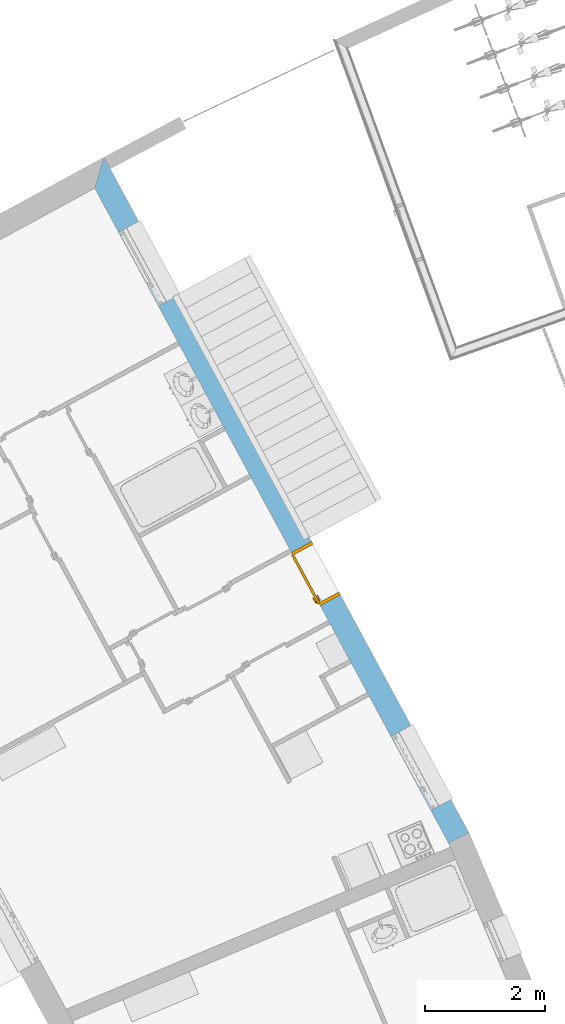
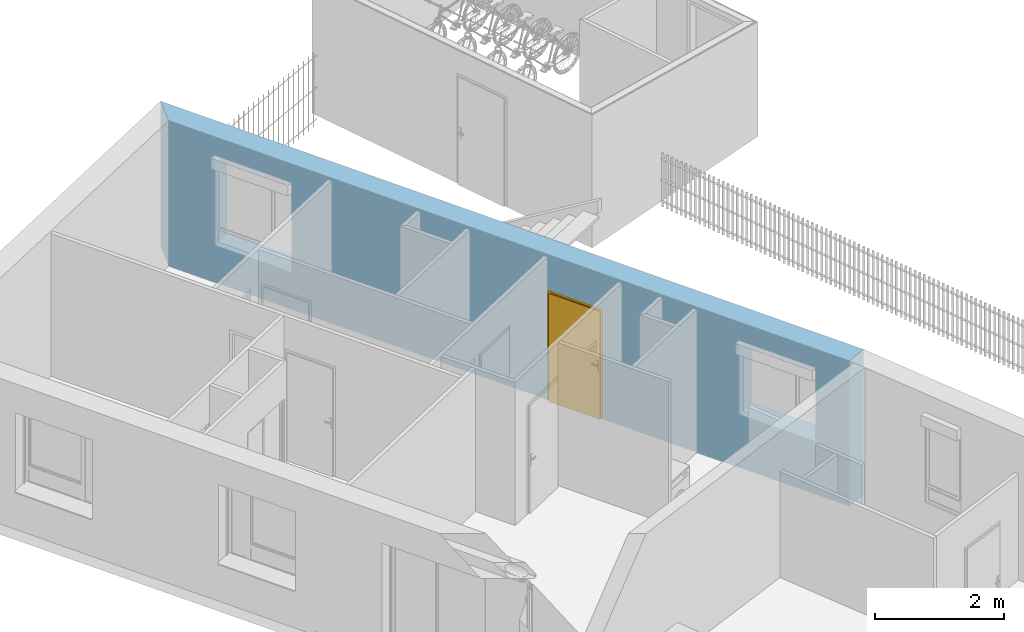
# One storey, part 68 of 195: 1 door, 3 openings, plus 1 element that does not belong to this part.
"""IFC2X3 building model written with IfcOpenShell, lengths in metres."""

import ifcopenshell
import ifcopenshell.guid

model = None  # the IFC model being written
_history = None  # IfcOwnerHistory: only IFC2X3 demands one
_inside = {}  # id of a spatial element -> (the spatial element, [elements in it])
_under = {}  # id of a project, library or spatial element -> (it, [spatial elements below it])
_declared = {}  # id of a project -> (the project, [libraries it declares])
_typed = {}  # id of a type object -> (the type object, [elements of that type])
_made_of = {}  # id of a material, layer set ... -> (it, [elements and type objects made of it])


def new_model(schema):
    """Start an empty IFC model of exactly this schema.

    Asked for "IFC4X3", IfcOpenShell would pick the latest addendum, in which some entities
    have other attributes; the version numbers below select the first issue.
    IFC2X3 requires an IfcOwnerHistory on every rooted entity: one is made here for all.
    """
    global model, _history
    if schema == "IFC4X3":
        model = ifcopenshell.file(schema_version=(4, 3, 0, 0))
    else:
        model = ifcopenshell.file(schema=schema)
    _inside.clear()
    _under.clear()
    _declared.clear()
    _typed.clear()
    _made_of.clear()
    _history = None
    if model.schema == "IFC2X3":
        org = make("IfcOrganization", Name="unknown")
        user = make(
            "IfcPersonAndOrganization",
            ThePerson=make("IfcPerson", FamilyName="unknown"),
            TheOrganization=org,
        )
        app = make(
            "IfcApplication",
            ApplicationDeveloper=org,
            Version="unknown",
            ApplicationFullName="unknown",
            ApplicationIdentifier="unknown",
        )
        _history = make(
            "IfcOwnerHistory",
            OwningUser=user,
            OwningApplication=app,
            ChangeAction="ADDED",
            CreationDate=0,
        )
    return model


def make(cls, **values):
    """One entity of the class cls with the attributes given. An attribute that is None is left unset."""
    return model.create_entity(
        cls, **{name: value for name, value in values.items() if value is not None}
    )


def entity(cls, *values):
    """Any entity or typed value of the class cls, its attributes in the order of the schema. None: left unset."""
    e = model.create_entity(cls)
    for i, value in enumerate(values):
        if value is not None:
            e[i] = value
    return e


def rooted(cls, **values):
    """An entity with a GlobalId (a new one), such as an element, a storey or a relation."""
    return make(cls, GlobalId=ifcopenshell.guid.new(), OwnerHistory=_history, **values)


def si_unit(unit_type, name, prefix=None):
    """IfcSIUnit, for example si_unit("LENGTHUNIT", "METRE", prefix="MILLI")."""
    return make("IfcSIUnit", UnitType=unit_type, Prefix=prefix, Name=name)


def converted_unit(unit_type, name, factor, base, dimensions=None, offset=None):
    """IfcConversionBasedUnit, such as the inch: factor (a typed value) times the base unit."""
    return make(
        "IfcConversionBasedUnit"
        if offset is None
        else "IfcConversionBasedUnitWithOffset",
        ConversionOffset=offset,
        Dimensions=None
        if dimensions is None
        else entity("IfcDimensionalExponents", *dimensions),
        UnitType=unit_type,
        Name=name,
        ConversionFactor=make(
            "IfcMeasureWithUnit", ValueComponent=factor, UnitComponent=base
        ),
    )


def derived_unit(unit_type, elements):
    """IfcDerivedUnit: a product of units, each with its exponent."""
    return make(
        "IfcDerivedUnit",
        Elements=[
            make("IfcDerivedUnitElement", Unit=unit, Exponent=power)
            for unit, power in elements
        ],
        UnitType=unit_type,
    )


def money_unit(currency):
    """IfcMonetaryUnit."""
    return make("IfcMonetaryUnit", Currency=currency)


def assignment(units):
    """IfcUnitAssignment: the units of a project."""
    return None if units is None else make("IfcUnitAssignment", Units=units)


def point(xyz):
    """IfcCartesianPoint."""
    return None if xyz is None else make("IfcCartesianPoint", Coordinates=xyz)


def direction(xyz):
    """IfcDirection."""
    return None if xyz is None else make("IfcDirection", DirectionRatios=xyz)


def frame(location, z_axis=None, x_axis=None):
    """IfcAxis2Placement3D, a coordinate frame: its origin and axes. An axis left out is left unset."""
    return make(
        "IfcAxis2Placement3D",
        Location=point(location),
        Axis=direction(z_axis),
        RefDirection=direction(x_axis),
    )


def frame_2d(location, x_axis=None):
    """IfcAxis2Placement2D, a coordinate frame in the plane: its origin and x axis."""
    return make(
        "IfcAxis2Placement2D", Location=point(location), RefDirection=direction(x_axis)
    )


def origin_with_axes():
    """The frame at (0, 0, 0) with the z axis (0, 0, 1) and the x axis (1, 0, 0) written out."""
    return frame((0.0, 0.0, 0.0), z_axis=(0.0, 0.0, 1.0), x_axis=(1.0, 0.0, 0.0))


def origin_2d_with_axis():
    """The frame at (0, 0) in the plane with the x axis (1, 0) written out."""
    return frame_2d((0.0, 0.0), x_axis=(1.0, 0.0))


def place(relative_to, where):
    """IfcLocalPlacement: puts the frame where relative to a parent placement (None: the world)."""
    return make(
        "IfcLocalPlacement", PlacementRelTo=relative_to, RelativePlacement=where
    )


def context(
    kind, dimensions, precision=None, world=None, true_north=None, identifier=None
):
    """IfcGeometricRepresentationContext, for example the 3D "Model" context."""
    return make(
        "IfcGeometricRepresentationContext",
        ContextIdentifier=identifier,
        ContextType=kind,
        CoordinateSpaceDimension=dimensions,
        Precision=precision,
        WorldCoordinateSystem=world,
        TrueNorth=true_north,
    )


def subcontext(parent, identifier, kind, view, scale=None):
    """IfcGeometricRepresentationSubContext, for example "Body" below "Model"."""
    return make(
        "IfcGeometricRepresentationSubContext",
        ContextIdentifier=identifier,
        ContextType=kind,
        ParentContext=parent,
        TargetScale=scale,
        TargetView=view,
    )


def project(units=None, contexts=None):
    """IfcProject with its units and contexts."""
    return rooted(
        "IfcProject",
        Name="project",
        RepresentationContexts=contexts,
        UnitsInContext=assignment(units),
    )


def spatial(cls, under=None, at=None, **own):
    """A site, building, storey or space (cls), placed at a placement, below another one or the project."""
    s = rooted(cls, ObjectPlacement=at, **own)
    if under is not None:
        _under.setdefault(under.id(), (under, []))[1].append(s)
    return s


def polyline(points):
    """IfcPolyline through the points."""
    return make("IfcPolyline", Points=[point(p) for p in points])


def profile(cls, at=None, kind="AREA", **sizes):
    """A parametric profile (cls). Its sizes go by their IFC names, for example OverallWidth=200.0."""
    return make(cls, ProfileType=kind, Position=at, **sizes)


def rectangle(**sizes):
    """IfcRectangleProfileDef."""
    return profile("IfcRectangleProfileDef", **sizes)


def outline(outer, holes=None, kind="AREA"):
    """IfcArbitraryClosedProfileDef: a profile drawn as a closed curve; with holes, ...WithVoids."""
    if holes is None:
        return make("IfcArbitraryClosedProfileDef", ProfileType=kind, OuterCurve=outer)
    return make(
        "IfcArbitraryProfileDefWithVoids",
        ProfileType=kind,
        OuterCurve=outer,
        InnerCurves=holes,
    )


def extrude(swept, where, along, depth):
    """IfcExtrudedAreaSolid: the profile swept, set in the frame where, extruded along a direction by depth."""
    return make(
        "IfcExtrudedAreaSolid",
        SweptArea=swept,
        Position=where,
        ExtrudedDirection=direction(along),
        Depth=depth,
    )


def faces_of(points, faces, orient=None, outer=None):
    """IfcFace entities. A face is a list of loops; a loop is a list of indices into points, from 0.

    orient and outer hold one flag for each loop. By default every Orientation is true, the
    first loop of a face is its IfcFaceOuterBound and the others are IfcFaceBound.
    """
    made = []
    for i, loops in enumerate(faces):
        bounds = []
        for j, loop in enumerate(loops):
            is_outer = j == 0 if outer is None else outer[i][j]
            bounds.append(
                make(
                    "IfcFaceOuterBound" if is_outer else "IfcFaceBound",
                    Bound=make("IfcPolyLoop", Polygon=[points[k] for k in loop]),
                    Orientation=True if orient is None else orient[i][j],
                )
            )
        made.append(make("IfcFace", Bounds=bounds))
    return made


def faceted_brep(points, faces, orient=None, outer=None, voids=None):
    """IfcFacetedBrep: a solid bounded by flat faces; with voids (closed shells), ...WithVoids."""
    shared = [point(p) for p in points]
    hull = make("IfcClosedShell", CfsFaces=faces_of(shared, faces, orient, outer))
    if voids is None:
        return make("IfcFacetedBrep", Outer=hull)
    return make(
        "IfcFacetedBrepWithVoids",
        Outer=hull,
        Voids=[
            make(cls, CfsFaces=faces_of(shared, fs, o, b)) for cls, fs, o, b in voids
        ],
    )


def shape(context_of_items, identifier, shape_type, items):
    """IfcShapeRepresentation: the items that make up one representation, for example the "Body"."""
    return make(
        "IfcShapeRepresentation",
        ContextOfItems=context_of_items,
        RepresentationIdentifier=identifier,
        RepresentationType=shape_type,
        Items=items,
    )


def source(mapping_origin, context_of_items, identifier, shape_type, items):
    """IfcRepresentationMap: a shape defined once, which mapped items show again and again."""
    return make(
        "IfcRepresentationMap",
        MappingOrigin=mapping_origin,
        MappedRepresentation=shape(context_of_items, identifier, shape_type, items),
    )


def transform(
    local_origin,
    x_axis=None,
    y_axis=None,
    z_axis=None,
    scale=None,
    scale2=None,
    scale3=None,
    uniform=True,
):
    """IfcCartesianTransformationOperator3D, or its non-uniform kind. x_axis, y_axis, z_axis: its Axis1, 2, 3."""
    if uniform:
        return make(
            "IfcCartesianTransformationOperator3D",
            Axis1=direction(x_axis),
            Axis2=direction(y_axis),
            LocalOrigin=point(local_origin),
            Scale=scale,
            Axis3=direction(z_axis),
        )
    return make(
        "IfcCartesianTransformationOperator3DnonUniform",
        Axis1=direction(x_axis),
        Axis2=direction(y_axis),
        LocalOrigin=point(local_origin),
        Scale=scale,
        Axis3=direction(z_axis),
        Scale2=scale2,
        Scale3=scale3,
    )


def mapped(mapping_source, mapping_target):
    """IfcMappedItem: shows the shape of a source again, moved by a transform."""
    return make(
        "IfcMappedItem", MappingSource=mapping_source, MappingTarget=mapping_target
    )


def material(Name=None, Category=None):
    """IfcMaterial."""
    return make("IfcMaterial", Name=Name, Category=Category)


def layer(
    of_material, thickness, ventilated=None, Name=None, Category=None, Priority=None
):
    """IfcMaterialLayer: one layer of a wall or slab, of a material (None: an air gap)."""
    return make(
        "IfcMaterialLayer",
        Material=of_material,
        LayerThickness=thickness,
        IsVentilated=ventilated,
        Name=Name,
        Category=Category,
        Priority=Priority,
    )


def layer_set(layers, Name=None):
    """IfcMaterialLayerSet."""
    return make("IfcMaterialLayerSet", MaterialLayers=layers, LayerSetName=Name)


def layer_usage(for_layer_set, set_direction, sense, offset, extent=None):
    """IfcMaterialLayerSetUsage: how a layer set lies in its element."""
    return make(
        "IfcMaterialLayerSetUsage",
        ForLayerSet=for_layer_set,
        LayerSetDirection=set_direction,
        DirectionSense=sense,
        OffsetFromReferenceLine=offset,
        ReferenceExtent=extent,
    )


def made_of(thing, what):
    """Note that an element or type object is made of a material, layer set ...; save() writes the relation."""
    if what is not None:
        _made_of.setdefault(what.id(), (what, []))[1].append(thing)
    return thing


def type_object(cls, material=None, **own):
    """A type object (cls), such as IfcWallType, which elements share."""
    return made_of(rooted(cls, **own), material)


def element(
    cls,
    number,
    at=None,
    inside=None,
    cuts=None,
    type_object=None,
    material=None,
    context=None,
    identifier="Body",
    shape_type=None,
    held_by="IfcProductDefinitionShape",
    body=None,
    shapes=None,
    **own,
):
    """One element of the class cls, such as IfcWall. Its Tag is "e" and its number.

    at: its placement. inside: the storey or other place that contains it. cuts: it is an
    opening in that element (IfcRelVoidsElement). A single representation is given by context,
    identifier, shape_type and body (its items); several are given by shapes. held_by: the class
    of the entity that holds the representations. save() writes the other relations.
    """
    e = rooted(cls, Tag="e%d" % number, ObjectPlacement=at, **own)
    if body is not None:
        shapes = [shape(context, identifier, shape_type, body)]
    if shapes is not None:
        e.Representation = make(held_by, Representations=shapes)
    if inside is not None:
        _inside.setdefault(inside.id(), (inside, []))[1].append(e)
    if cuts is not None:
        rooted(
            "IfcRelVoidsElement", RelatingBuildingElement=cuts, RelatedOpeningElement=e
        )
    if type_object is not None:
        _typed.setdefault(type_object.id(), (type_object, []))[1].append(e)
    return made_of(e, material)


def fill(opening, filler):
    """IfcRelFillsElement: the door or window that sits in an opening."""
    return rooted(
        "IfcRelFillsElement",
        RelatingOpeningElement=opening,
        RelatedBuildingElement=filler,
    )


def aggregate(whole, parts):
    """IfcRelAggregates: a whole, such as a stair, and the parts it consists of."""
    return rooted("IfcRelAggregates", RelatingObject=whole, RelatedObjects=parts)


def save(model, path):
    """Write the relations noted so far, then the file.

    IfcRelAggregates (storeys below a building ...), IfcRelContainedInSpatialStructure (elements
    in a storey), IfcRelDefinesByType, IfcRelAssociatesMaterial and IfcRelDeclares: one each for
    every whole, place, type object, material and project.
    """
    for whole, parts in _under.values():
        aggregate(whole, parts)
    for where, things in _inside.values():
        rooted(
            "IfcRelContainedInSpatialStructure",
            RelatedElements=things,
            RelatingStructure=where,
        )
    for kind, things in _typed.values():
        rooted("IfcRelDefinesByType", RelatedObjects=things, RelatingType=kind)
    for what, things in _made_of.values():
        rooted("IfcRelAssociatesMaterial", RelatedObjects=things, RelatingMaterial=what)
    for by, libraries in _declared.values():
        rooted("IfcRelDeclares", RelatingContext=by, RelatedDefinitions=libraries)
    model.write(path)


model = new_model("IFC2X3")

# Units and contexts
model_context = context("Model", 3, precision=1e-05, world=origin_with_axes(), true_north=direction((0.0, 1.0)))
body_context = subcontext(model_context, "Body", "Model", "MODEL_VIEW")
ifc_project = project(units=[si_unit("LENGTHUNIT", "METRE"), si_unit("AREAUNIT", "SQUARE_METRE"), si_unit("VOLUMEUNIT", "CUBIC_METRE"), converted_unit("PLANEANGLEUNIT", "DEGREE", entity("IfcPlaneAngleMeasure", 0.0174532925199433), si_unit("PLANEANGLEUNIT", "RADIAN"), dimensions=[0, 0, 0, 0, 0, 0, 0]), money_unit("CHF"), converted_unit("TIMEUNIT", "Year", entity("IfcTimeMeasure", 31557600.0), si_unit("TIMEUNIT", "SECOND"), dimensions=[0, 0, 1, 0, 0, 0, 0]), si_unit("MASSUNIT", "GRAM", prefix="KILO"), si_unit("THERMODYNAMICTEMPERATUREUNIT", "DEGREE_CELSIUS"), si_unit("LUMINOUSINTENSITYUNIT", "LUMEN"), si_unit("ENERGYUNIT", "JOULE", prefix="MEGA"), derived_unit("THERMALCONDUCTANCEUNIT", [(si_unit("POWERUNIT", "WATT"), 1), (si_unit("LENGTHUNIT", "METRE"), -1), (si_unit("THERMODYNAMICTEMPERATUREUNIT", "KELVIN"), -1)]), derived_unit("SPECIFICHEATCAPACITYUNIT", [(si_unit("ENERGYUNIT", "JOULE"), 1), (si_unit("MASSUNIT", "GRAM", prefix="KILO"), -1), (si_unit("THERMODYNAMICTEMPERATUREUNIT", "KELVIN"), -1)]), derived_unit("MASSDENSITYUNIT", [(si_unit("MASSUNIT", "GRAM", prefix="KILO"), 1), (si_unit("VOLUMEUNIT", "CUBIC_METRE"), -1)])], contexts=[model_context])

# Site, building, storey
site_placement = place(None, origin_with_axes())
site = spatial("IfcSite", under=ifc_project, at=site_placement, Name="Site", CompositionType="ELEMENT")
building_placement = place(site_placement, origin_with_axes())
building = spatial("IfcBuilding", under=site, at=building_placement, Name="Bâtiment", CompositionType="ELEMENT")
storey_placement = place(building_placement, origin_with_axes())
storey = spatial("IfcBuildingStorey", under=building, at=storey_placement, Name="rdc", CompositionType="ELEMENT", Elevation=0.0)

# Wall, openings, door
ifc_material_1 = material(Name="Parpaing 312445824")
ifc_layer_1 = layer(ifc_material_1, 0.22, ventilated="UNKNOWN")
ifc_material_2 = material(Name="Isolant styromousse 301821074")
ifc_layer_2 = layer(ifc_material_2, 0.16, ventilated="UNKNOWN")
ifc_layer_set = layer_set([ifc_layer_1, ifc_layer_2], Name="isol int 22+16 0836643197")
ifc_layer_usage = layer_usage(ifc_layer_set, "AXIS2", "NEGATIVE", 0.0)
wall_type = type_object("IfcWallType", Name="isol int 22+16 0836643197 380", PredefinedType="NOTDEFINED")
wall_placement = place(storey_placement, frame((9561.285709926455, -1024.008620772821, 57.7), z_axis=(0.0, 0.0, 1.0), x_axis=(0.4753186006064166, -0.8798137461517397, 0.0)))
wall = element("IfcWallStandardCase", 1, at=wall_placement, inside=storey, type_object=wall_type, material=ifc_layer_usage, Name="Mur-113", context=body_context, shape_type="SweptSolid", body=[
    extrude(outline(polyline([(0.3809761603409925, -0.3800000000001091), (12.75104633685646, -0.3800000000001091), (12.76934803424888, 0.0), (0.0, 0.0), (0.3809761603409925, -0.3800000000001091)])), origin_with_axes(), (0.0, 0.0, 1.0), 2.75),
])
opening_1_placement = place(wall_placement, frame((1.910548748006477, 0.0, 0.7000000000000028), z_axis=(0.0, 0.0, 1.0), x_axis=(1.0, 0.0, 0.0)))
element("IfcOpeningElement", 2, at=opening_1_placement, cuts=wall, Name="Fen-045", context=body_context, shape_type="Brep", body=[
    faceted_brep([(-0.6999999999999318, -0.2199999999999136, 1.5), (0.7000000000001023, -0.2199999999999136, 1.5), (0.7000000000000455, 5.341037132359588, 1.5), (-0.6999999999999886, 5.341037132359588, 1.5), (-0.6999999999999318, -0.2199999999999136, 1.700000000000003), (0.7000000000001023, -0.2199999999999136, 1.700000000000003), (0.7000000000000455, -0.3000000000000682, 1.5), (0.7000000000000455, -0.3000000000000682, 0.0), (0.7000000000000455, 5.341037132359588, 0.0), (-0.6999999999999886, 5.341037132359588, 0.0), (-0.6999999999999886, -0.2999999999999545, 1.5), (-0.7000000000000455, -0.2999999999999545, 0.0), (-0.6999999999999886, -0.4800000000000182, 1.5), (-0.6999999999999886, -0.4800000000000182, 1.700000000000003), (0.7000000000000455, -0.4800000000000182, 1.700000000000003), (0.7000000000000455, -0.4800000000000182, 1.5), (0.6999999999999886, -5.721037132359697, 1.5), (0.6999999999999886, -5.721037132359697, 0.0), (-0.7000000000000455, -5.721037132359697, 0.0), (-0.7000000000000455, -5.721037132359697, 1.5)], [[[0, 1, 2, 3]], [[1, 0, 4, 5]], [[1, 6, 7, 8, 2]], [[2, 8, 9, 3]], [[10, 0, 3, 9, 11]], [[0, 10, 12, 13, 4]], [[14, 5, 4, 13]], [[6, 1, 5, 14, 15]], [[6, 15, 16, 17, 7]], [[7, 11, 9, 8]], [[12, 10, 11, 18, 19]], [[12, 15, 14, 13]], [[15, 12, 19, 16]], [[19, 18, 17, 16]], [[11, 7, 17, 18]]]),
])
opening_2_placement = place(wall_placement, frame((11.43670824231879, 0.0, 1.0), z_axis=(0.0, 0.0, 1.0), x_axis=(1.0, 0.0, 0.0)))
element("IfcOpeningElement", 3, at=opening_2_placement, cuts=wall, Name="Fen-045", context=body_context, shape_type="Brep", body=[
    faceted_brep([(-0.6999999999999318, -0.2199999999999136, 1.200000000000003), (0.7000000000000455, -0.2199999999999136, 1.200000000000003), (0.7000000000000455, 5.341037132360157, 1.200000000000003), (-0.6999999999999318, 5.341037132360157, 1.200000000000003), (-0.6999999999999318, -0.2199999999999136, 1.399999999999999), (0.7000000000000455, -0.2199999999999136, 1.399999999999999), (0.7000000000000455, -0.2999999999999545, 1.200000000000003), (0.7000000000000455, -0.2999999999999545, 0.0), (0.7000000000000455, 5.341037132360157, 0.0), (-0.6999999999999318, 5.341037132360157, 0.0), (-0.7000000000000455, -0.2999999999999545, 1.200000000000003), (-0.7000000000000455, -0.2999999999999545, 0.0), (-0.7000000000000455, -0.4800000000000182, 1.200000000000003), (-0.7000000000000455, -0.4800000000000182, 1.399999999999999), (0.7000000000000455, -0.4800000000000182, 1.399999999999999), (0.7000000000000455, -0.4800000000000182, 1.200000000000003), (0.7000000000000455, -5.721037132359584, 1.200000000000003), (0.7000000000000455, -5.721037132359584, 0.0), (-0.7000000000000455, -5.721037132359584, 0.0), (-0.7000000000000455, -5.721037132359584, 1.200000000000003)], [[[0, 1, 2, 3]], [[1, 0, 4, 5]], [[1, 6, 7, 8, 2]], [[2, 8, 9, 3]], [[10, 0, 3, 9, 11]], [[0, 10, 12, 13, 4]], [[14, 5, 4, 13]], [[6, 1, 5, 14, 15]], [[6, 15, 16, 17, 7]], [[7, 11, 9, 8]], [[12, 10, 11, 18, 19]], [[12, 15, 14, 13]], [[15, 12, 19, 16]], [[19, 18, 17, 16]], [[11, 7, 17, 18]]]),
])
opening_3_placement = place(wall_placement, frame((7.765329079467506, 0.0, 0.0), z_axis=(0.0, 0.0, 1.0), x_axis=(1.0, 0.0, 0.0)))
opening_3 = element("IfcOpeningElement", 4, at=opening_3_placement, cuts=wall, Name="Por-290", context=body_context, shape_type="SweptSolid", body=[
    extrude(rectangle(XDim=1.01000001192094, YDim=2.079999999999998, at=origin_2d_with_axis()), frame((-5.960487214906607e-09, 0.3799999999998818, 1.039999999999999), z_axis=(0.0, -1.0, 0.0), x_axis=(-1.0, 0.0, 0.0)), (0.0, 0.0, 1.0), 0.76),
])
door_style = type_object("IfcDoorStyle", Name="Porte_1v", ConstructionType="NOTDEFINED", OperationType="NOTDEFINED", ParameterTakesPrecedence=False, Sizeable=False)
shared_shape = source(origin_with_axes(), body_context, "Body", "Brep", [
    faceted_brep([(0.5049999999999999, 0.0, 0.0), (0.465, 0.0, 0.0), (0.4649999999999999, 0.0, 2.04), (-0.4649999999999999, 0.0, 2.04), (-0.465, 0.0, 0.0), (-0.5049999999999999, 0.0, 0.0), (-0.5049999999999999, 0.0, 2.08), (0.5049999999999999, 0.0, 2.08), (0.5049999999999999, -0.38, 0.0), (0.45, -0.3799999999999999, 0.0), (0.45, -0.01500000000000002, 0.0), (0.465, -0.01500000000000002, 0.0), (0.4649999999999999, -0.01500000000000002, 2.04), (-0.4649999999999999, -0.01499999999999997, 2.04), (-0.465, -0.01499999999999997, 0.0), (-0.45, -0.01499999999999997, 0.0), (-0.45, -0.3799999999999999, 0.0), (-0.5049999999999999, -0.3799999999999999, 0.0), (-0.5049999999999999, -0.3799999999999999, 2.08), (0.5049999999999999, -0.38, 2.08), (-0.45, -0.3799999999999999, 2.025), (0.45, -0.3799999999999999, 2.025), (0.45, -0.01500000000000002, 2.025), (-0.45, -0.01499999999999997, 2.025)], [[[0, 1, 2, 3, 4, 5, 6, 7]], [[0, 8, 9, 10, 11, 1]], [[1, 11, 12, 2]], [[2, 12, 13, 3]], [[3, 13, 14, 4]], [[5, 4, 14, 15, 16, 17]], [[18, 6, 5, 17]], [[19, 7, 6, 18]], [[8, 0, 7, 19]], [[9, 8, 19, 18, 17, 16, 20, 21]], [[10, 9, 21, 22]], [[11, 10, 22, 23, 15, 14, 13, 12]], [[23, 20, 16, 15]], [[22, 21, 20, 23]]]),
    faceted_brep([(-0.4, -0.01499999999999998, 0.9), (-0.4399999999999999, -0.01499999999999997, 0.9), (-0.4399999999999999, -0.01499999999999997, 1.1), (-0.4, -0.01499999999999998, 1.1), (-0.4, -0.02499999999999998, 0.9), (-0.4399999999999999, -0.02499999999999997, 0.9), (-0.4399999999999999, -0.02499999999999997, 1.1), (-0.4, -0.02499999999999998, 1.1)], [[[0, 1, 2, 3]], [[1, 0, 4, 5]], [[2, 1, 5, 6]], [[3, 2, 6, 7]], [[0, 3, 7, 4]], [[5, 4, 7, 6]]]),
    faceted_brep([(-0.3299999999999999, -0.02499999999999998, 1.0), (-0.4299999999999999, -0.02499999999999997, 1.0), (-0.4299999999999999, -0.02499999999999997, 1.02), (-0.3299999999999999, -0.02499999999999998, 1.02), (-0.3299999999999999, -0.04499999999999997, 1.0), (-0.4299999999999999, -0.04499999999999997, 1.0), (-0.4299999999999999, -0.04499999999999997, 1.02), (-0.3299999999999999, -0.04499999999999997, 1.02)], [[[0, 1, 2, 3]], [[1, 0, 4, 5]], [[2, 1, 5, 6]], [[3, 2, 6, 7]], [[0, 3, 7, 4]], [[5, 4, 7, 6]]]),
    faceted_brep([(-0.4, 0.03500000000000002, 0.9), (-0.4399999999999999, 0.03500000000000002, 0.9), (-0.4399999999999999, 0.03500000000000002, 1.1), (-0.4, 0.03500000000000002, 1.1), (-0.4, 0.02500000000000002, 0.9), (-0.4399999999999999, 0.02500000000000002, 0.9), (-0.4399999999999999, 0.02500000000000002, 1.1), (-0.4, 0.02500000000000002, 1.1)], [[[0, 1, 2, 3]], [[1, 0, 4, 5]], [[2, 1, 5, 6]], [[3, 2, 6, 7]], [[0, 3, 7, 4]], [[5, 4, 7, 6]]]),
    faceted_brep([(-0.3299999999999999, 0.05500000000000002, 1.0), (-0.4299999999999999, 0.05500000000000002, 1.0), (-0.4299999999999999, 0.05500000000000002, 1.02), (-0.3299999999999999, 0.05500000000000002, 1.02), (-0.3299999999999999, 0.03500000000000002, 1.0), (-0.4299999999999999, 0.03500000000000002, 1.0), (-0.4299999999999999, 0.03500000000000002, 1.02), (-0.3299999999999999, 0.03500000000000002, 1.02)], [[[0, 1, 2, 3]], [[1, 0, 4, 5]], [[2, 1, 5, 6]], [[3, 2, 6, 7]], [[0, 3, 7, 4]], [[5, 4, 7, 6]]]),
    faceted_brep([(-0.465, 0.02500000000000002, 0.0), (0.465, 0.02499999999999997, 0.0), (0.465, -0.01500000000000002, 0.0), (-0.465, -0.01499999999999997, 0.0), (-0.465, 0.02500000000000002, 2.04), (0.465, 0.02499999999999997, 2.04), (0.465, -0.01500000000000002, 2.04), (-0.465, -0.01499999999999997, 2.04)], [[[0, 1, 2, 3]], [[0, 4, 5, 1]], [[1, 5, 6, 2]], [[3, 2, 6, 7]], [[4, 0, 3, 7]], [[5, 4, 7, 6]]]),
])
door_placement = place(opening_3_placement, frame((0.465000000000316, 0.0, 0.0), z_axis=(0.0, 0.0, 1.0), x_axis=(-1.0, 0.0, 0.0)))
door = element("IfcDoor", 5, at=door_placement, inside=storey, type_object=door_style, Name="Por-290", OverallHeight=2.04, OverallWidth=0.93, context=body_context, shape_type="MappedRepresentation", body=[
    mapped(shared_shape, transform((0.4650000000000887, 0.3799999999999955, 0.0))),
])
fill(opening_3, door)

save(model, "model.ifc")
